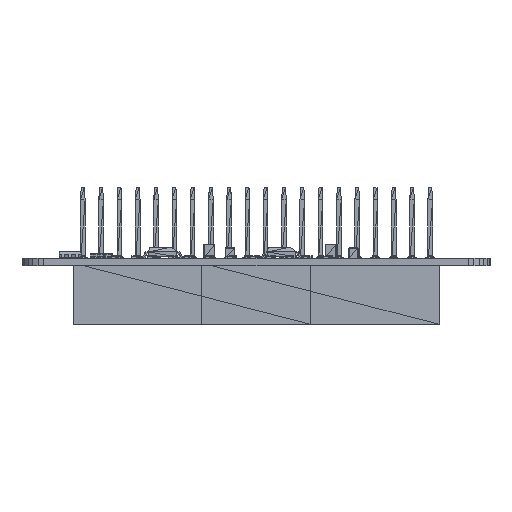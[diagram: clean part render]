
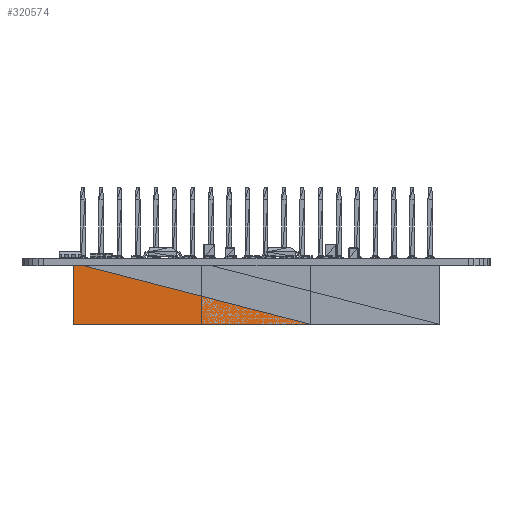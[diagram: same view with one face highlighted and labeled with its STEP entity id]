
A CAD part, front view. The second image highlights one B-rep face of the part: STEP entity #320574.
In plain terms, the highlighted planar face has unit normal (0, -1, 0) as drawn and (0, 0, -1) by its records, which use the part's own axes.
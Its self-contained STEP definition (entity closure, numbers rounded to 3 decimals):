
#26729=FACE_OUTER_BOUND('',#53473,.T.);
#53473=EDGE_LOOP('',(#264089,#264090,#264091));
#92254=LINE('',#520220,#131928);
#92263=LINE('',#520237,#131937);
#92264=LINE('',#520239,#131938);
#131928=VECTOR('',#436937,1.);
#131937=VECTOR('',#436954,1.);
#131938=VECTOR('',#436957,1.);
#147782=VERTEX_POINT('',#520213);
#147784=VERTEX_POINT('',#520219);
#147788=VERTEX_POINT('',#520235);
#186286=EDGE_CURVE('',#147782,#147784,#92254,.T.);
#186295=EDGE_CURVE('',#147788,#147782,#92263,.T.);
#186296=EDGE_CURVE('',#147784,#147788,#92264,.T.);
#264089=ORIENTED_EDGE('',*,*,#186286,.F.);
#264090=ORIENTED_EDGE('',*,*,#186295,.F.);
#264091=ORIENTED_EDGE('',*,*,#186296,.F.);
#294080=PLANE('',#347802);
#320574=ADVANCED_FACE('',(#26729),#294080,.F.);
#347802=AXIS2_PLACEMENT_3D('',#520238,#436955,#436956);
#436937=DIRECTION('',(0.968,0.249,0.));
#436954=DIRECTION('',(0.,-1.,0.));
#436955=DIRECTION('center_axis',(0.,0.,1.));
#436956=DIRECTION('ref_axis',(0.,1.,0.));
#436957=DIRECTION('',(-1.,0.,0.));
#520213=CARTESIAN_POINT('',(-34.335,10.648,-1.253));
#520219=CARTESIAN_POINT('',(-1.315,19.148,-1.253));
#520220=CARTESIAN_POINT('',(-34.335,10.648,-1.253));
#520235=CARTESIAN_POINT('',(-34.335,19.148,-1.253));
#520237=CARTESIAN_POINT('',(-34.335,19.148,-1.253));
#520238=CARTESIAN_POINT('Origin',(-1.315,19.148,-1.253));
#520239=CARTESIAN_POINT('',(-1.315,19.148,-1.253));
